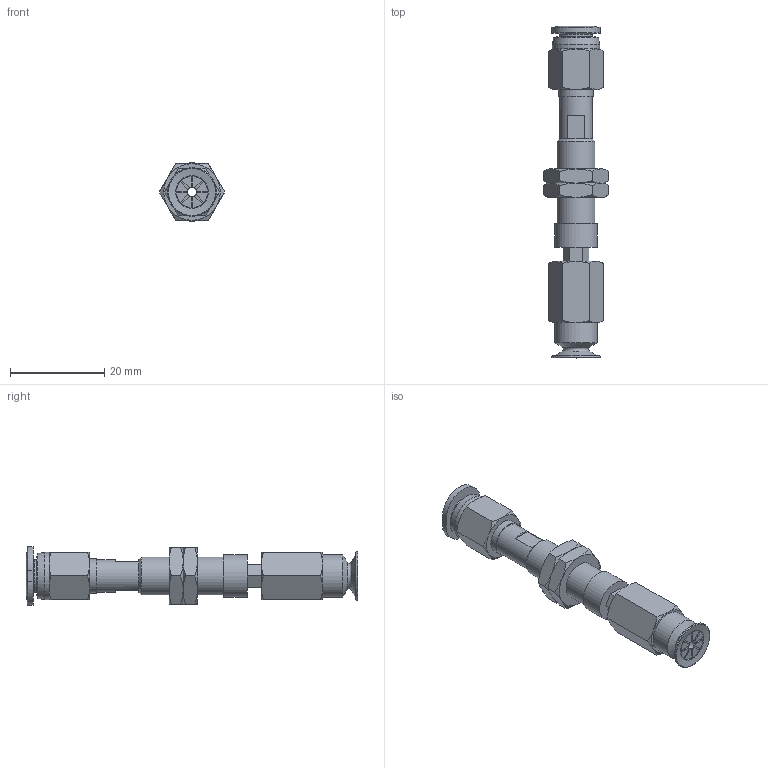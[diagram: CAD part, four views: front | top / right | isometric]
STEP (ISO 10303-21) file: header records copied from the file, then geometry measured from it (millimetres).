
FILE_DESCRIPTION(('STEP AP203'),'1');
FILE_NAME('-O.stp','2025-08-12T07:59:06',(' '),(' '),'Spatial InterOp 3D',' ',' ');
FILE_SCHEMA(('CONFIG_CONTROL_DESIGN'));
Length unit declared in the file: millimetre
Products named in the file (7): BNABPATH-10B-3-※-O; NAPATH-10A-3--F; Nut-10A-S; PC-C_06-M5; BPAG-10B-※; NAPATH-10A-3--M; ADAPTER
Assembly tree (7 placements, depth 2):
  BNABPATH-10B-3-※-O
    NAPATH-10A-3--F
    Nut-10A-S  x2
    PC-C_06-M5
    BPAG-10B-※
    NAPATH-10A-3--M
    ADAPTER
Bounding box: 13.86 x 70.48 x 12.4 mm (x, y, z)
Volume: 4214.9 mm3; surface area: 5093.7 mm2
Topology: 7 solids, 7 shells, 208 faces, 464 edges, 286 vertices
Faces by surface type: plane 94, cone 62, cylinder 32, torus 13, bspline 4, revolution 3
Full cylindrical faces by diameter (mm): 2 x3, 4 x4, 4.134 x1, 5 x1, 6 x2, 7 x3, 7.188 x2, 7.4 x1, 8 x1, 8.2 x1, 9 x2, 10 x1
Entity records: 5598 total; most frequent: CARTESIAN_POINT 1448, DIRECTION 789, ORIENTED_EDGE 716, EDGE_CURVE 358, AXIS2_PLACEMENT_3D 325, EDGE_LOOP 258, VERTEX_POINT 248, FACE_OUTER_BOUND 219
